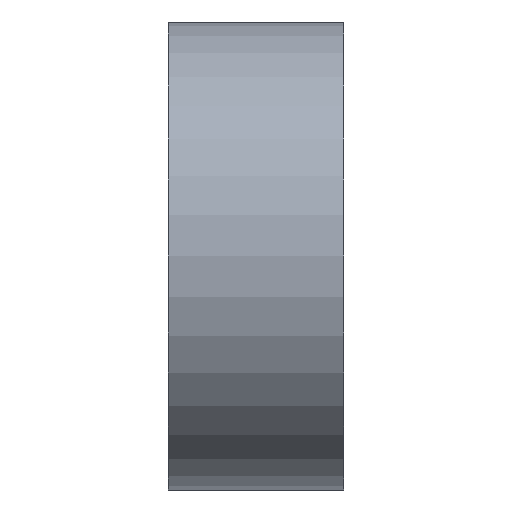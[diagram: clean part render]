
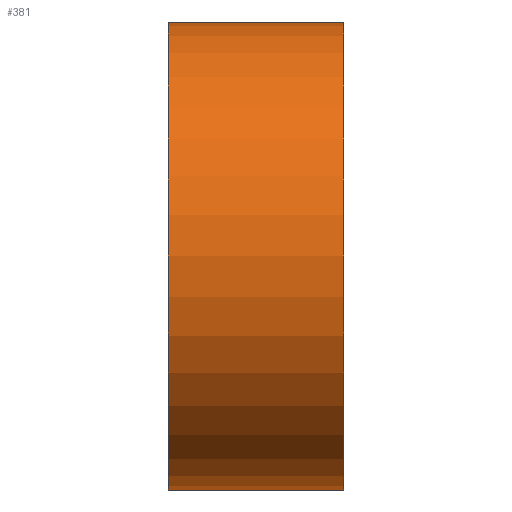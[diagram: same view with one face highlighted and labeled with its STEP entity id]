
A CAD part, left-side view. The second image highlights one B-rep face of the part: STEP entity #381.
In plain terms, the highlighted cylindrical face has radius 4 mm (diameter 8 mm), a partial arc.
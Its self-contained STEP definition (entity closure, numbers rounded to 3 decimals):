
#22 = VERTEX_POINT('',#23);
#23 = CARTESIAN_POINT('',(-24.25,43.2,40.));
#32 = PLANE('',#33);
#33 = AXIS2_PLACEMENT_3D('',#34,#35,#36);
#34 = CARTESIAN_POINT('',(-24.25,43.2,32.));
#35 = DIRECTION('',(-0.,1.,0.));
#36 = DIRECTION('',(0.,0.,1.));
#44 = PLANE('',#45);
#45 = AXIS2_PLACEMENT_3D('',#46,#47,#48);
#46 = CARTESIAN_POINT('',(-24.25,43.2,40.));
#47 = DIRECTION('',(0.,0.,1.));
#48 = DIRECTION('',(1.,0.,-0.));
#86 = VERTEX_POINT('',#87);
#87 = CARTESIAN_POINT('',(-24.25,43.2,32.));
#101 = PLANE('',#102);
#102 = AXIS2_PLACEMENT_3D('',#103,#104,#105);
#103 = CARTESIAN_POINT('',(-24.25,43.2,32.));
#104 = DIRECTION('',(0.,0.,1.));
#105 = DIRECTION('',(1.,0.,-0.));
#113 = EDGE_CURVE('',#86,#22,#114,.T.);
#114 = SURFACE_CURVE('',#115,(#120,#127),.PCURVE_S1.);
#115 = CIRCLE('',#116,4.);
#116 = AXIS2_PLACEMENT_3D('',#117,#118,#119);
#117 = CARTESIAN_POINT('',(-24.25,43.2,36.));
#118 = DIRECTION('',(0.,1.,0.));
#119 = DIRECTION('',(0.,-0.,1.));
#120 = PCURVE('',#32,#121);
#121 = DEFINITIONAL_REPRESENTATION('',(#122),#126);
#122 = CIRCLE('',#123,4.);
#123 = AXIS2_PLACEMENT_2D('',#124,#125);
#124 = CARTESIAN_POINT('',(4.,0.));
#125 = DIRECTION('',(1.,0.));
#126 = ( GEOMETRIC_REPRESENTATION_CONTEXT(2) 
PARAMETRIC_REPRESENTATION_CONTEXT() REPRESENTATION_CONTEXT('2D SPACE',''
  ) );
#127 = PCURVE('',#128,#133);
#128 = CYLINDRICAL_SURFACE('',#129,4.);
#129 = AXIS2_PLACEMENT_3D('',#130,#131,#132);
#130 = CARTESIAN_POINT('',(-24.25,43.2,36.));
#131 = DIRECTION('',(0.,1.,0.));
#132 = DIRECTION('',(0.,-0.,1.));
#133 = DEFINITIONAL_REPRESENTATION('',(#134),#138);
#134 = LINE('',#135,#136);
#135 = CARTESIAN_POINT('',(0.,0.));
#136 = VECTOR('',#137,1.);
#137 = DIRECTION('',(1.,0.));
#138 = ( GEOMETRIC_REPRESENTATION_CONTEXT(2) 
PARAMETRIC_REPRESENTATION_CONTEXT() REPRESENTATION_CONTEXT('2D SPACE',''
  ) );
#205 = EDGE_CURVE('',#22,#206,#208,.T.);
#206 = VERTEX_POINT('',#207);
#207 = CARTESIAN_POINT('',(-24.25,46.2,40.));
#208 = SURFACE_CURVE('',#209,(#213,#220),.PCURVE_S1.);
#209 = LINE('',#210,#211);
#210 = CARTESIAN_POINT('',(-24.25,43.2,40.));
#211 = VECTOR('',#212,1.);
#212 = DIRECTION('',(-0.,1.,0.));
#213 = PCURVE('',#44,#214);
#214 = DEFINITIONAL_REPRESENTATION('',(#215),#219);
#215 = LINE('',#216,#217);
#216 = CARTESIAN_POINT('',(0.,0.));
#217 = VECTOR('',#218,1.);
#218 = DIRECTION('',(0.,1.));
#219 = ( GEOMETRIC_REPRESENTATION_CONTEXT(2) 
PARAMETRIC_REPRESENTATION_CONTEXT() REPRESENTATION_CONTEXT('2D SPACE',''
  ) );
#220 = PCURVE('',#128,#221);
#221 = DEFINITIONAL_REPRESENTATION('',(#222),#225);
#222 = B_SPLINE_CURVE_WITH_KNOTS('',1,(#223,#224),.UNSPECIFIED.,.F.,.F.,
  (2,2),(0.,3.),.PIECEWISE_BEZIER_KNOTS.);
#223 = CARTESIAN_POINT('',(6.283,0.));
#224 = CARTESIAN_POINT('',(6.283,3.));
#225 = ( GEOMETRIC_REPRESENTATION_CONTEXT(2) 
PARAMETRIC_REPRESENTATION_CONTEXT() REPRESENTATION_CONTEXT('2D SPACE',''
  ) );
#370 = PLANE('',#371);
#371 = AXIS2_PLACEMENT_3D('',#372,#373,#374);
#372 = CARTESIAN_POINT('',(-24.25,46.2,32.));
#373 = DIRECTION('',(-0.,1.,0.));
#374 = DIRECTION('',(0.,0.,1.));
#381 = ADVANCED_FACE('',(#382),#128,.T.);
#382 = FACE_BOUND('',#383,.T.);
#383 = EDGE_LOOP('',(#384,#385,#409,#430));
#384 = ORIENTED_EDGE('',*,*,#205,.T.);
#385 = ORIENTED_EDGE('',*,*,#386,.F.);
#386 = EDGE_CURVE('',#387,#206,#389,.T.);
#387 = VERTEX_POINT('',#388);
#388 = CARTESIAN_POINT('',(-24.25,46.2,32.));
#389 = SURFACE_CURVE('',#390,(#395,#402),.PCURVE_S1.);
#390 = CIRCLE('',#391,4.);
#391 = AXIS2_PLACEMENT_3D('',#392,#393,#394);
#392 = CARTESIAN_POINT('',(-24.25,46.2,36.));
#393 = DIRECTION('',(0.,1.,0.));
#394 = DIRECTION('',(0.,-0.,1.));
#395 = PCURVE('',#128,#396);
#396 = DEFINITIONAL_REPRESENTATION('',(#397),#401);
#397 = LINE('',#398,#399);
#398 = CARTESIAN_POINT('',(0.,3.));
#399 = VECTOR('',#400,1.);
#400 = DIRECTION('',(1.,0.));
#401 = ( GEOMETRIC_REPRESENTATION_CONTEXT(2) 
PARAMETRIC_REPRESENTATION_CONTEXT() REPRESENTATION_CONTEXT('2D SPACE',''
  ) );
#402 = PCURVE('',#370,#403);
#403 = DEFINITIONAL_REPRESENTATION('',(#404),#408);
#404 = CIRCLE('',#405,4.);
#405 = AXIS2_PLACEMENT_2D('',#406,#407);
#406 = CARTESIAN_POINT('',(4.,0.));
#407 = DIRECTION('',(1.,0.));
#408 = ( GEOMETRIC_REPRESENTATION_CONTEXT(2) 
PARAMETRIC_REPRESENTATION_CONTEXT() REPRESENTATION_CONTEXT('2D SPACE',''
  ) );
#409 = ORIENTED_EDGE('',*,*,#410,.F.);
#410 = EDGE_CURVE('',#86,#387,#411,.T.);
#411 = SURFACE_CURVE('',#412,(#416,#423),.PCURVE_S1.);
#412 = LINE('',#413,#414);
#413 = CARTESIAN_POINT('',(-24.25,43.2,32.));
#414 = VECTOR('',#415,1.);
#415 = DIRECTION('',(-0.,1.,0.));
#416 = PCURVE('',#128,#417);
#417 = DEFINITIONAL_REPRESENTATION('',(#418),#422);
#418 = LINE('',#419,#420);
#419 = CARTESIAN_POINT('',(3.142,0.));
#420 = VECTOR('',#421,1.);
#421 = DIRECTION('',(0.,1.));
#422 = ( GEOMETRIC_REPRESENTATION_CONTEXT(2) 
PARAMETRIC_REPRESENTATION_CONTEXT() REPRESENTATION_CONTEXT('2D SPACE',''
  ) );
#423 = PCURVE('',#101,#424);
#424 = DEFINITIONAL_REPRESENTATION('',(#425),#429);
#425 = LINE('',#426,#427);
#426 = CARTESIAN_POINT('',(0.,0.));
#427 = VECTOR('',#428,1.);
#428 = DIRECTION('',(0.,1.));
#429 = ( GEOMETRIC_REPRESENTATION_CONTEXT(2) 
PARAMETRIC_REPRESENTATION_CONTEXT() REPRESENTATION_CONTEXT('2D SPACE',''
  ) );
#430 = ORIENTED_EDGE('',*,*,#113,.T.);
